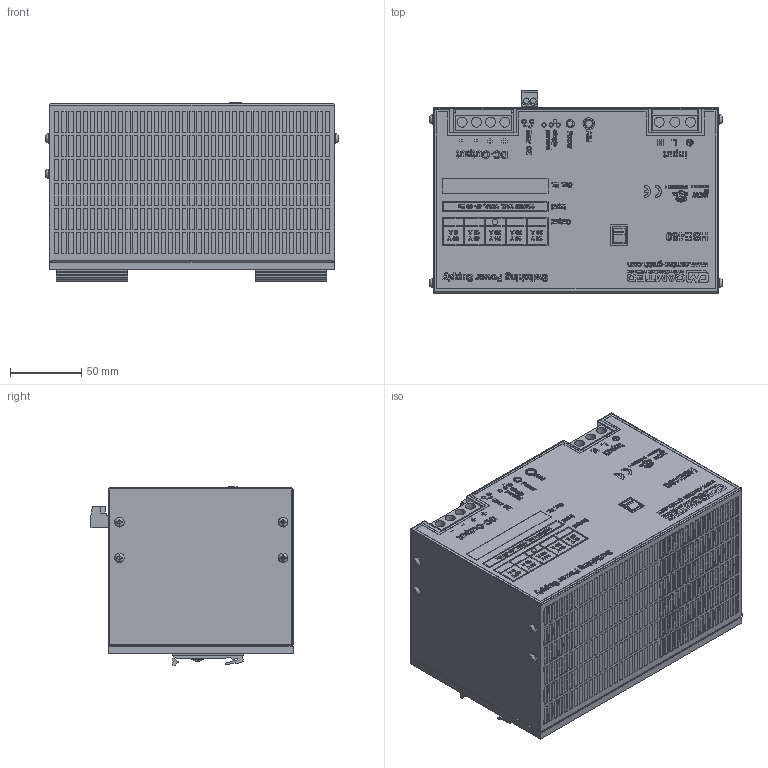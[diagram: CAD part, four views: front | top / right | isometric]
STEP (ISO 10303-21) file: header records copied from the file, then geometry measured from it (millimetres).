
FILE_DESCRIPTION( /* description */ (''), /* implementation_level */ '2;1');
FILE_NAME( /* name */ 'D:\Alle CAD Daten\CAMTEC 2017\Gehäuse HSE_ HSEUreg und HSEUIre g\Gehäuse HSE04801-24T\Baugruppe HSE04801-24T\HSE04801-24T.stp', /* time_stamp */ '2017-03-27T12:52:01+02:00', /* author */ ('RBZ'), /* organization */ (''), /* preprocessor_version */ 'ST-DEVELOPER v16.5', /* originating_system */ 'Autodesk Inventor 2017', /* authorisation */ '');
FILE_SCHEMA (('CONFIG_CONTROL_DESIGN'));
Products named in the file (3): HSE04801-24T; HSE04801-24T_1; Aufkleber HSE04801-24T
Assembly tree (2 placements, depth 2):
  HSE04801-24T
    HSE04801-24T_1
    Aufkleber HSE04801-24T
Bounding box: 206 x 142 x 125.5 mm (x, y, z)
Volume: 2643170 mm3; surface area: 410414.6 mm2
Topology: 274 solids, 274 shells, 6002 faces, 16282 edges, 10835 vertices
Faces by surface type: plane 4463, bspline 1347, cylinder 192
Full cylindrical faces by diameter (mm): 2.3 x5, 3 x2, 4 x7, 5 x3, 5.2 x2, 5.8 x2, 6 x4, 6.2 x1, 6.4 x2, 6.7 x6, 7 x7, 8 x9, 8.2 x2
Entity records: 196889 total; most frequent: CARTESIAN_POINT 51323, ORIENTED_EDGE 32460, DIRECTION 23297, EDGE_CURVE 16230, LINE 13015, VECTOR 13015, VERTEX_POINT 10835, EDGE_LOOP 7191
